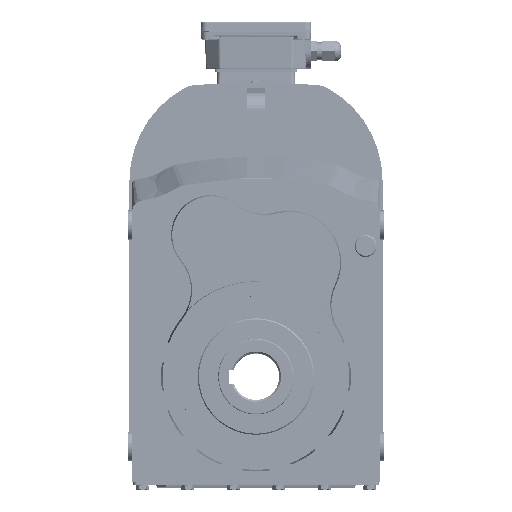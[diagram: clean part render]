
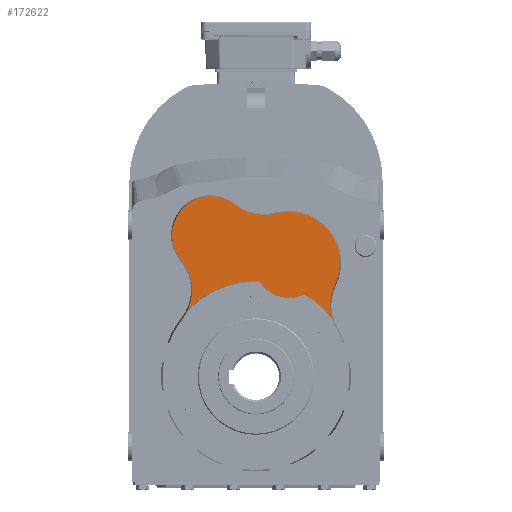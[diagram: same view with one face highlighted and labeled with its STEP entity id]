
A CAD part, top view. The second image highlights one B-rep face of the part: STEP entity #172622.
In plain terms, the highlighted planar face has unit normal (0, 0, 1).
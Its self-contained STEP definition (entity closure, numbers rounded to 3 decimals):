
#1897 = CARTESIAN_POINT ( 'NONE',  ( -38.422, 121.236, 170.5 ) ) ;
#1940 = DIRECTION ( 'NONE',  ( 0., 0., 1. ) ) ;
#2054 = DIRECTION ( 'NONE',  ( -1., 0., 0. ) ) ;
#2205 = CARTESIAN_POINT ( 'NONE',  ( 103.143, 61.331, 170.5 ) ) ;
#2210 = DIRECTION ( 'NONE',  ( 0., 0., -1. ) ) ;
#2215 = DIRECTION ( 'NONE',  ( 1., 0., 0. ) ) ;
#2338 = DIRECTION ( 'NONE',  ( -1., 0., 0. ) ) ;
#2364 = DIRECTION ( 'NONE',  ( 0., 0., 1. ) ) ;
#2370 = CARTESIAN_POINT ( 'NONE',  ( 28.633, 97.899, 170.5 ) ) ;
#2374 = DIRECTION ( 'NONE',  ( 0., 0., -1. ) ) ;
#2416 = CARTESIAN_POINT ( 'NONE',  ( -94.281, 74.237, 170.5 ) ) ;
#2423 = DIRECTION ( 'NONE',  ( 1., 0., 0. ) ) ;
#2440 = DIRECTION ( 'NONE',  ( 0., 0., 1. ) ) ;
#2478 = DIRECTION ( 'NONE',  ( -1., 0., 0. ) ) ;
#2534 = CARTESIAN_POINT ( 'NONE',  ( 28.633, 97.899, 170.5 ) ) ;
#2571 = CARTESIAN_POINT ( 'NONE',  ( 0., 0., 170.5 ) ) ;
#2579 = DIRECTION ( 'NONE',  ( 0., 1., 0. ) ) ;
#2594 = DIRECTION ( 'NONE',  ( 0., 1., 0. ) ) ;
#2608 = CARTESIAN_POINT ( 'NONE',  ( 0., 0., 170.5 ) ) ;
#2614 = DIRECTION ( 'NONE',  ( 0., 0., 1. ) ) ;
#2633 = DIRECTION ( 'NONE',  ( 0., 0., 1. ) ) ;
#7104 = CIRCLE ( 'NONE', #76245, 39.519 ) ;
#7151 = CIRCLE ( 'NONE', #76257, 81.925 ) ;
#7266 = CIRCLE ( 'NONE', #76236, 33.481 ) ;
#7846 = CIRCLE ( 'NONE', #76296, 39.519 ) ;
#9235 = CARTESIAN_POINT ( 'NONE',  ( 0., 0., 170.5 ) ) ;
#9262 = DIRECTION ( 'NONE',  ( 0., 0., 1. ) ) ;
#9275 = DIRECTION ( 'NONE',  ( 0., 1., 0. ) ) ;
#9392 = CARTESIAN_POINT ( 'NONE',  ( -94.281, 74.237, 170.5 ) ) ;
#9439 = DIRECTION ( 'NONE',  ( 0., 0., -1. ) ) ;
#9470 = DIRECTION ( 'NONE',  ( 1., 0., 0. ) ) ;
#10067 = DIRECTION ( 'NONE',  ( 0., 0., 1. ) ) ;
#10076 = CARTESIAN_POINT ( 'NONE',  ( -38.422, 121.236, 170.5 ) ) ;
#10123 = DIRECTION ( 'NONE',  ( -1., 0., 0. ) ) ;
#11100 = CARTESIAN_POINT ( 'NONE',  ( 7.331, 178.119, 170.5 ) ) ;
#11135 = DIRECTION ( 'NONE',  ( 0., -1., 0. ) ) ;
#11162 = DIRECTION ( 'NONE',  ( 0., 0., -1. ) ) ;
#12834 = FACE_OUTER_BOUND ( 'NONE', #125791, .T. ) ;
#23895 = CIRCLE ( 'NONE', #75726, 43.481 ) ;
#23918 = CIRCLE ( 'NONE', #75691, 39.519 ) ;
#24054 = CIRCLE ( 'NONE', #75724, 39.519 ) ;
#24283 = CIRCLE ( 'NONE', #75700, 81.925 ) ;
#24345 = CIRCLE ( 'NONE', #75773, 81.925 ) ;
#24373 = CIRCLE ( 'NONE', #75681, 30.5 ) ;
#24563 = CIRCLE ( 'NONE', #75850, 33.481 ) ;
#25372 = EDGE_CURVE ( 'NONE', #127162, #127034, #24054, .T. ) ;
#25503 = EDGE_CURVE ( 'NONE', #127034, #56548, #23895, .T. ) ;
#25516 = EDGE_CURVE ( 'NONE', #56542, #56489, #23918, .T. ) ;
#25610 = EDGE_CURVE ( 'NONE', #127099, #127115, #24373, .T. ) ;
#25648 = EDGE_CURVE ( 'NONE', #127162, #127115, #24345, .T. ) ;
#25652 = EDGE_CURVE ( 'NONE', #127099, #56433, #24283, .T. ) ;
#25924 = EDGE_CURVE ( 'NONE', #126716, #56455, #24563, .T. ) ;
#27627 = EDGE_CURVE ( 'NONE', #56433, #56489, #7151, .T. ) ;
#27650 = EDGE_CURVE ( 'NONE', #56415, #56542, #7104, .T. ) ;
#27736 = EDGE_CURVE ( 'NONE', #56455, #56415, #7266, .T. ) ;
#28083 = EDGE_CURVE ( 'NONE', #56548, #56502, #7846, .T. ) ;
#56415 = VERTEX_POINT ( 'NONE', #137441 ) ;
#56433 = VERTEX_POINT ( 'NONE', #137517 ) ;
#56455 = VERTEX_POINT ( 'NONE', #137495 ) ;
#56489 = VERTEX_POINT ( 'NONE', #137622 ) ;
#56502 = VERTEX_POINT ( 'NONE', #137631 ) ;
#56542 = VERTEX_POINT ( 'NONE', #137562 ) ;
#56548 = VERTEX_POINT ( 'NONE', #137758 ) ;
#75681 = AXIS2_PLACEMENT_3D ( 'NONE', #2534, #2440, #2478 ) ;
#75691 = AXIS2_PLACEMENT_3D ( 'NONE', #2416, #2374, #2423 ) ;
#75700 = AXIS2_PLACEMENT_3D ( 'NONE', #2571, #2614, #2594 ) ;
#75724 = AXIS2_PLACEMENT_3D ( 'NONE', #2205, #2210, #2215 ) ;
#75726 = AXIS2_PLACEMENT_3D ( 'NONE', #2370, #2364, #2338 ) ;
#75773 = AXIS2_PLACEMENT_3D ( 'NONE', #2608, #2633, #2579 ) ;
#75850 = AXIS2_PLACEMENT_3D ( 'NONE', #1897, #1940, #2054 ) ;
#76236 = AXIS2_PLACEMENT_3D ( 'NONE', #10076, #10067, #10123 ) ;
#76245 = AXIS2_PLACEMENT_3D ( 'NONE', #9392, #9439, #9470 ) ;
#76257 = AXIS2_PLACEMENT_3D ( 'NONE', #9235, #9262, #9275 ) ;
#76296 = AXIS2_PLACEMENT_3D ( 'NONE', #11100, #11162, #11135 ) ;
#82901 = ORIENTED_EDGE ( 'NONE', *, *, #25652, .F. ) ;
#82905 = ORIENTED_EDGE ( 'NONE', *, *, #25610, .T. ) ;
#83070 = ORIENTED_EDGE ( 'NONE', *, *, #27650, .T. ) ;
#83106 = ORIENTED_EDGE ( 'NONE', *, *, #25924, .T. ) ;
#83115 = ORIENTED_EDGE ( 'NONE', *, *, #25503, .T. ) ;
#83135 = ORIENTED_EDGE ( 'NONE', *, *, #27627, .F. ) ;
#83194 = ORIENTED_EDGE ( 'NONE', *, *, #25516, .T. ) ;
#83199 = ORIENTED_EDGE ( 'NONE', *, *, #110309, .T. ) ;
#83293 = ORIENTED_EDGE ( 'NONE', *, *, #28083, .T. ) ;
#83337 = ORIENTED_EDGE ( 'NONE', *, *, #25372, .T. ) ;
#83343 = ORIENTED_EDGE ( 'NONE', *, *, #25648, .F. ) ;
#83354 = ORIENTED_EDGE ( 'NONE', *, *, #27736, .T. ) ;
#89913 = DIRECTION ( 'NONE',  ( 1., 0., 0. ) ) ;
#90040 = DIRECTION ( 'NONE',  ( 0., 0., 1. ) ) ;
#90085 = PLANE ( 'NONE',  #93814 ) ;
#90154 = CARTESIAN_POINT ( 'NONE',  ( 17.982, 138.009, 170.5 ) ) ;
#93814 = AXIS2_PLACEMENT_3D ( 'NONE', #90154, #90040, #89913 ) ;
#110309 = EDGE_CURVE ( 'NONE', #56502, #126716, #156597, .T. ) ;
#124432 = CARTESIAN_POINT ( 'NONE',  ( -17.438, 147.325, 170.5 ) ) ;
#124527 = CARTESIAN_POINT ( 'NONE',  ( 2.677, 81.881, 170.5 ) ) ;
#124535 = CARTESIAN_POINT ( 'NONE',  ( 65.552, 49.138, 170.5 ) ) ;
#124545 = CARTESIAN_POINT ( 'NONE',  ( 41.866, 70.419, 170.5 ) ) ;
#124560 = CARTESIAN_POINT ( 'NONE',  ( 67.666, 78.742, 170.5 ) ) ;
#125791 = EDGE_LOOP ( 'NONE', ( #83070, #83194, #83135, #82901, #82905, #83343, #83337, #83115, #83293, #83199, #83106, #83354 ) ) ;
#126716 = VERTEX_POINT ( 'NONE', #124432 ) ;
#127034 = VERTEX_POINT ( 'NONE', #124560 ) ;
#127099 = VERTEX_POINT ( 'NONE', #124527 ) ;
#127115 = VERTEX_POINT ( 'NONE', #124545 ) ;
#127162 = VERTEX_POINT ( 'NONE', #124535 ) ;
#137441 = CARTESIAN_POINT ( 'NONE',  ( -64.041, 99.68, 170.5 ) ) ;
#137495 = CARTESIAN_POINT ( 'NONE',  ( -71.903, 121.236, 170.5 ) ) ;
#137517 = CARTESIAN_POINT ( 'NONE',  ( 0., 81.925, 170.5 ) ) ;
#137562 = CARTESIAN_POINT ( 'NONE',  ( -54.762, 74.237, 170.5 ) ) ;
#137622 = CARTESIAN_POINT ( 'NONE',  ( -58.597, 57.254, 170.5 ) ) ;
#137631 = CARTESIAN_POINT ( 'NONE',  ( 7.331, 138.6, 170.5 ) ) ;
#137758 = CARTESIAN_POINT ( 'NONE',  ( 17.473, 139.924, 170.5 ) ) ;
#138945 = AXIS2_PLACEMENT_3D ( 'NONE', #165078, #165079, #165081 ) ;
#156597 = CIRCLE ( 'NONE', #138945, 39.519 ) ;
#165078 = CARTESIAN_POINT ( 'NONE',  ( 7.331, 178.119, 170.5 ) ) ;
#165079 = DIRECTION ( 'NONE',  ( 0., 0., -1. ) ) ;
#165081 = DIRECTION ( 'NONE',  ( 0., -1., 0. ) ) ;
#172622 = ADVANCED_FACE ( 'NONE', ( #12834 ), #90085, .T. ) ;
